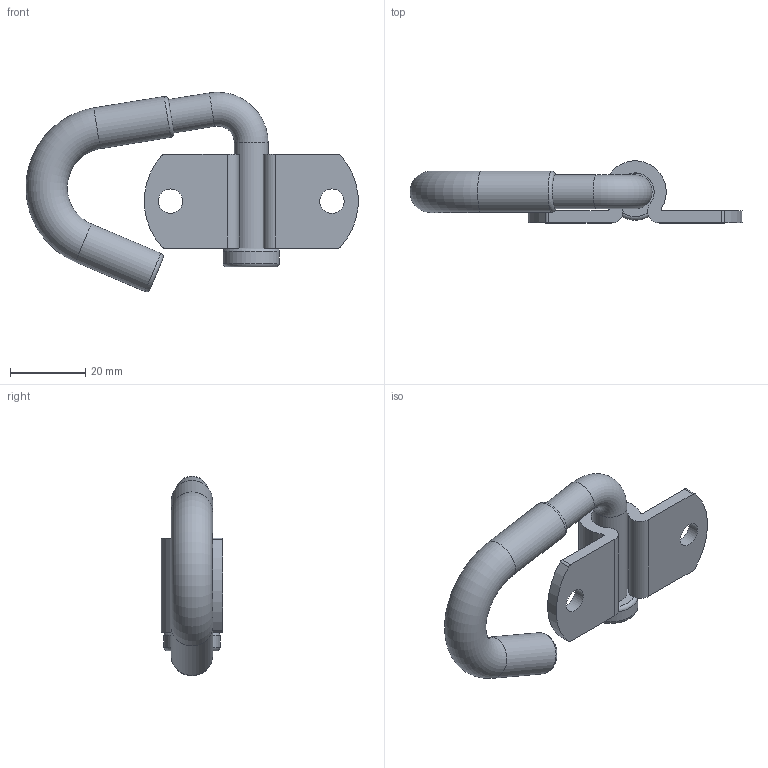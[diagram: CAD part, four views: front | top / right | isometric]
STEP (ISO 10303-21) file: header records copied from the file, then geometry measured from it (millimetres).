
FILE_DESCRIPTION(/* description */ (''),/* implementation_level */ '2;1');
FILE_NAME(/* name */ '\\NAS\db20\TC-15\DR_TC-15.stp',/* time_stamp */ '2017-08-30T15:46:41+09:00',/* author */ ('user'),/* organization */ (''),/* preprocessor_version */ 'ST-DEVELOPER v15.6',/* originating_system */ 'Autodesk Inventor 2015',/* authorisation */ '');
FILE_SCHEMA (('AUTOMOTIVE_DESIGN { 1 0 10303 214 3 1 1 }'));
Length unit declared in the file: millimetre
Products named in the file (3): DR_TC-15-P; DR_TC-15-C; DR_TC-15
Bounding box: 88.42 x 16.47 x 53.11 mm (x, y, z)
Volume: 18184.9 mm3; surface area: 9448.2 mm2
Topology: 2 solids, 2 shells, 34 faces, 81 edges, 52 vertices
Faces by surface type: cylinder 19, plane 9, torus 6
Full cylindrical faces by diameter (mm): 6.5 x2, 9 x2, 11 x2, 15 x1
Entity records: 993 total; most frequent: DIRECTION 184, CARTESIAN_POINT 153, ORIENTED_EDGE 130, AXIS2_PLACEMENT_3D 80, EDGE_CURVE 65, EDGE_LOOP 52, VERTEX_POINT 49, CIRCLE 41
